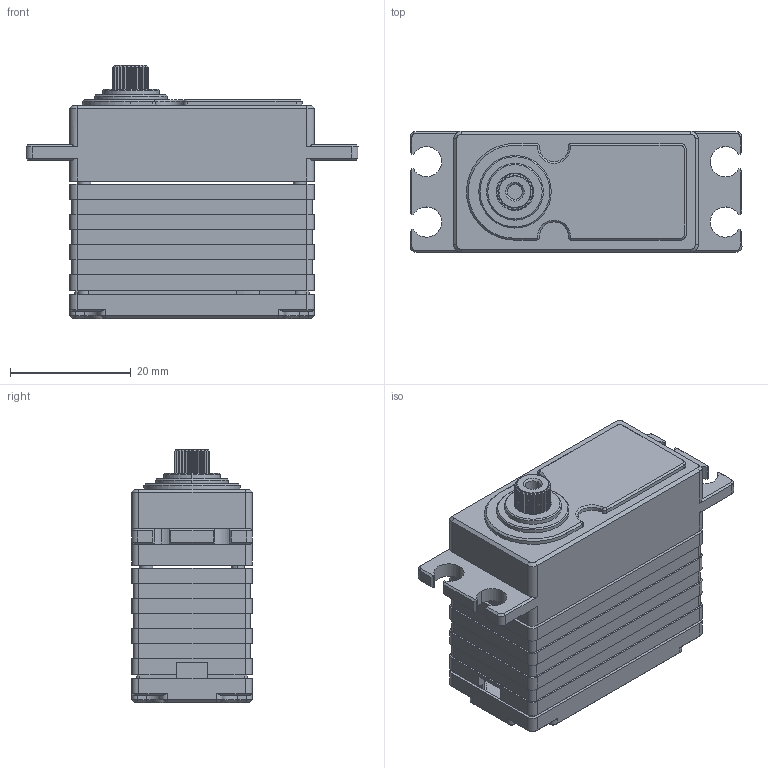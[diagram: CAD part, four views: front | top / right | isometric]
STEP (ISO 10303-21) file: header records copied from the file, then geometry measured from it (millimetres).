
FILE_DESCRIPTION (( 'STEP AP214' ), '1' );
FILE_NAME ('SV3312-12_DM_20231206.STEP', '2023-12-06T01:28:14', ( '' ), ( '' ), 'SwSTEP 2.0', 'SolidWorks 2016', '' );
FILE_SCHEMA (( 'AUTOMOTIVE_DESIGN' ));
Length unit declared in the file: millimetre
Products named in the file (1): SV3312-12_DM_20231206
Bounding box: 55 x 20 x 42 mm (x, y, z)
Surface area: 9940.2 mm2 (no closed solid volume)
Topology: 0 solids, 6 shells, 471 faces, 1350 edges, 894 vertices
Faces by surface type: plane 218, cylinder 175, cone 76, bspline 2
Entity records: 20663 total; most frequent: CARTESIAN_POINT 2998, DIRECTION 2674, ORIENTED_EDGE 2542, EDGE_CURVE 1350, AXIS2_PLACEMENT_3D 943, VERTEX_POINT 894, VECTOR 788, LINE 788
